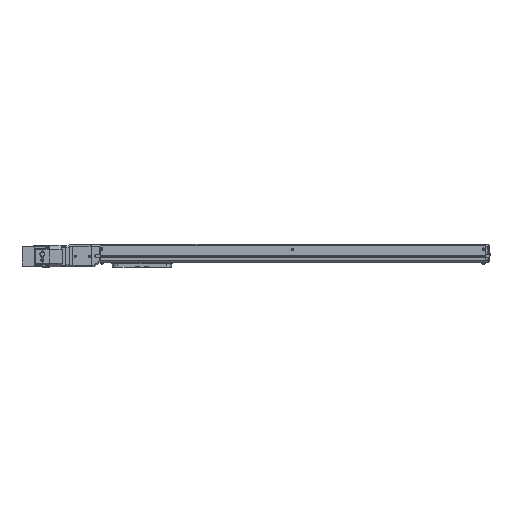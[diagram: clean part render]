
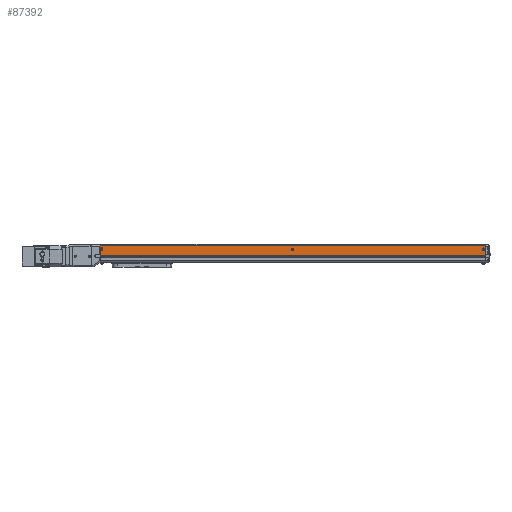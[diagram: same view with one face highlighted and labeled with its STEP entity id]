
A CAD part, top view. The second image highlights one B-rep face of the part: STEP entity #87392.
In plain terms, the highlighted planar face has unit normal (0, 0, 1) as drawn and (0, 0, -1) by its records, which use the part's own axes.
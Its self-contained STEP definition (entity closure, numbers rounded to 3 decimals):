
#68400 = PLANE('',#68401);
#68401 = AXIS2_PLACEMENT_3D('',#68402,#68403,#68404);
#68402 = CARTESIAN_POINT('',(-776.5,1.25,21.3));
#68403 = DIRECTION('',(1.,0.,0.));
#68404 = DIRECTION('',(0.,0.,-1.));
#68828 = PLANE('',#68829);
#68829 = AXIS2_PLACEMENT_3D('',#68830,#68831,#68832);
#68830 = CARTESIAN_POINT('',(-9.5,1.25,21.3));
#68831 = DIRECTION('',(1.,0.,0.));
#68832 = DIRECTION('',(0.,0.,-1.));
#86585 = VERTEX_POINT('',#86586);
#86586 = CARTESIAN_POINT('',(-776.5,-2.65,-21.5));
#86603 = CYLINDRICAL_SURFACE('',#86604,0.2);
#86604 = AXIS2_PLACEMENT_3D('',#86605,#86606,#86607);
#86605 = CARTESIAN_POINT('',(-776.5,-2.65,-21.3));
#86606 = DIRECTION('',(1.,0.,0.));
#86607 = DIRECTION('',(0.,0.,-1.));
#86615 = EDGE_CURVE('',#86616,#86585,#86618,.T.);
#86616 = VERTEX_POINT('',#86617);
#86617 = CARTESIAN_POINT('',(-776.5,-20.734,-21.5));
#86618 = SURFACE_CURVE('',#86619,(#86623,#86630),.PCURVE_S1.);
#86619 = LINE('',#86620,#86621);
#86620 = CARTESIAN_POINT('',(-776.5,-20.734,-21.5));
#86621 = VECTOR('',#86622,1.);
#86622 = DIRECTION('',(0.,1.,0.));
#86623 = PCURVE('',#68400,#86624);
#86624 = DEFINITIONAL_REPRESENTATION('',(#86625),#86629);
#86625 = LINE('',#86626,#86627);
#86626 = CARTESIAN_POINT('',(42.8,-21.984));
#86627 = VECTOR('',#86628,1.);
#86628 = DIRECTION('',(0.,1.));
#86629 = ( GEOMETRIC_REPRESENTATION_CONTEXT(2) 
PARAMETRIC_REPRESENTATION_CONTEXT() REPRESENTATION_CONTEXT('2D SPACE',''
  ) );
#86630 = PCURVE('',#86631,#86636);
#86631 = PLANE('',#86632);
#86632 = AXIS2_PLACEMENT_3D('',#86633,#86634,#86635);
#86633 = CARTESIAN_POINT('',(-776.5,-20.734,-21.5));
#86634 = DIRECTION('',(0.,0.,-1.));
#86635 = DIRECTION('',(-1.,0.,0.));
#86636 = DEFINITIONAL_REPRESENTATION('',(#86637),#86641);
#86637 = LINE('',#86638,#86639);
#86638 = CARTESIAN_POINT('',(0.,0.));
#86639 = VECTOR('',#86640,1.);
#86640 = DIRECTION('',(0.,1.));
#86641 = ( GEOMETRIC_REPRESENTATION_CONTEXT(2) 
PARAMETRIC_REPRESENTATION_CONTEXT() REPRESENTATION_CONTEXT('2D SPACE',''
  ) );
#86660 = CYLINDRICAL_SURFACE('',#86661,1.);
#86661 = AXIS2_PLACEMENT_3D('',#86662,#86663,#86664);
#86662 = CARTESIAN_POINT('',(-776.5,-20.734,-20.5));
#86663 = DIRECTION('',(1.,0.,0.));
#86664 = DIRECTION('',(0.,0.,-1.));
#87073 = VERTEX_POINT('',#87074);
#87074 = CARTESIAN_POINT('',(-9.5,-20.734,-21.5));
#87096 = EDGE_CURVE('',#87073,#87097,#87099,.T.);
#87097 = VERTEX_POINT('',#87098);
#87098 = CARTESIAN_POINT('',(-9.5,-2.65,-21.5));
#87099 = SURFACE_CURVE('',#87100,(#87104,#87111),.PCURVE_S1.);
#87100 = LINE('',#87101,#87102);
#87101 = CARTESIAN_POINT('',(-9.5,-20.734,-21.5));
#87102 = VECTOR('',#87103,1.);
#87103 = DIRECTION('',(0.,1.,0.));
#87104 = PCURVE('',#68828,#87105);
#87105 = DEFINITIONAL_REPRESENTATION('',(#87106),#87110);
#87106 = LINE('',#87107,#87108);
#87107 = CARTESIAN_POINT('',(42.8,-21.984));
#87108 = VECTOR('',#87109,1.);
#87109 = DIRECTION('',(0.,1.));
#87110 = ( GEOMETRIC_REPRESENTATION_CONTEXT(2) 
PARAMETRIC_REPRESENTATION_CONTEXT() REPRESENTATION_CONTEXT('2D SPACE',''
  ) );
#87111 = PCURVE('',#86631,#87112);
#87112 = DEFINITIONAL_REPRESENTATION('',(#87113),#87117);
#87113 = LINE('',#87114,#87115);
#87114 = CARTESIAN_POINT('',(-767.,0.));
#87115 = VECTOR('',#87116,1.);
#87116 = DIRECTION('',(0.,1.));
#87117 = ( GEOMETRIC_REPRESENTATION_CONTEXT(2) 
PARAMETRIC_REPRESENTATION_CONTEXT() REPRESENTATION_CONTEXT('2D SPACE',''
  ) );
#87372 = EDGE_CURVE('',#86616,#87073,#87373,.T.);
#87373 = SURFACE_CURVE('',#87374,(#87378,#87385),.PCURVE_S1.);
#87374 = LINE('',#87375,#87376);
#87375 = CARTESIAN_POINT('',(-776.5,-20.734,-21.5));
#87376 = VECTOR('',#87377,1.);
#87377 = DIRECTION('',(1.,0.,0.));
#87378 = PCURVE('',#86660,#87379);
#87379 = DEFINITIONAL_REPRESENTATION('',(#87380),#87384);
#87380 = LINE('',#87381,#87382);
#87381 = CARTESIAN_POINT('',(6.283,0.));
#87382 = VECTOR('',#87383,1.);
#87383 = DIRECTION('',(0.,1.));
#87384 = ( GEOMETRIC_REPRESENTATION_CONTEXT(2) 
PARAMETRIC_REPRESENTATION_CONTEXT() REPRESENTATION_CONTEXT('2D SPACE',''
  ) );
#87385 = PCURVE('',#86631,#87386);
#87386 = DEFINITIONAL_REPRESENTATION('',(#87387),#87391);
#87387 = LINE('',#87388,#87389);
#87388 = CARTESIAN_POINT('',(0.,0.));
#87389 = VECTOR('',#87390,1.);
#87390 = DIRECTION('',(-1.,0.));
#87391 = ( GEOMETRIC_REPRESENTATION_CONTEXT(2) 
PARAMETRIC_REPRESENTATION_CONTEXT() REPRESENTATION_CONTEXT('2D SPACE',''
  ) );
#87392 = ADVANCED_FACE('',(#87393,#87424,#87459,#87494),#86631,.T.);
#87393 = FACE_BOUND('',#87394,.T.);
#87394 = EDGE_LOOP('',(#87395));
#87395 = ORIENTED_EDGE('',*,*,#87396,.F.);
#87396 = EDGE_CURVE('',#87397,#87397,#87399,.T.);
#87397 = VERTEX_POINT('',#87398);
#87398 = CARTESIAN_POINT('',(-395.25,-13.5,-21.5));
#87399 = SURFACE_CURVE('',#87400,(#87405,#87412),.PCURVE_S1.);
#87400 = CIRCLE('',#87401,2.25);
#87401 = AXIS2_PLACEMENT_3D('',#87402,#87403,#87404);
#87402 = CARTESIAN_POINT('',(-393.,-13.5,-21.5));
#87403 = DIRECTION('',(0.,0.,-1.));
#87404 = DIRECTION('',(-1.,0.,0.));
#87405 = PCURVE('',#86631,#87406);
#87406 = DEFINITIONAL_REPRESENTATION('',(#87407),#87411);
#87407 = CIRCLE('',#87408,2.25);
#87408 = AXIS2_PLACEMENT_2D('',#87409,#87410);
#87409 = CARTESIAN_POINT('',(-383.5,7.234));
#87410 = DIRECTION('',(1.,0.));
#87411 = ( GEOMETRIC_REPRESENTATION_CONTEXT(2) 
PARAMETRIC_REPRESENTATION_CONTEXT() REPRESENTATION_CONTEXT('2D SPACE',''
  ) );
#87412 = PCURVE('',#87413,#87418);
#87413 = CONICAL_SURFACE('',#87414,2.25,0.087);
#87414 = AXIS2_PLACEMENT_3D('',#87415,#87416,#87417);
#87415 = CARTESIAN_POINT('',(-393.,-13.5,-21.5));
#87416 = DIRECTION('',(0.,0.,1.));
#87417 = DIRECTION('',(1.,0.,-0.));
#87418 = DEFINITIONAL_REPRESENTATION('',(#87419),#87423);
#87419 = LINE('',#87420,#87421);
#87420 = CARTESIAN_POINT('',(9.425,0.));
#87421 = VECTOR('',#87422,1.);
#87422 = DIRECTION('',(-1.,0.));
#87423 = ( GEOMETRIC_REPRESENTATION_CONTEXT(2) 
PARAMETRIC_REPRESENTATION_CONTEXT() REPRESENTATION_CONTEXT('2D SPACE',''
  ) );
#87424 = FACE_BOUND('',#87425,.T.);
#87425 = EDGE_LOOP('',(#87426));
#87426 = ORIENTED_EDGE('',*,*,#87427,.T.);
#87427 = EDGE_CURVE('',#87428,#87428,#87430,.T.);
#87428 = VERTEX_POINT('',#87429);
#87429 = CARTESIAN_POINT('',(-770.71,-14.5,-21.5));
#87430 = SURFACE_CURVE('',#87431,(#87436,#87447),.PCURVE_S1.);
#87431 = CIRCLE('',#87432,2.29);
#87432 = AXIS2_PLACEMENT_3D('',#87433,#87434,#87435);
#87433 = CARTESIAN_POINT('',(-773.,-14.5,-21.5));
#87434 = DIRECTION('',(0.,0.,1.));
#87435 = DIRECTION('',(1.,0.,-0.));
#87436 = PCURVE('',#86631,#87437);
#87437 = DEFINITIONAL_REPRESENTATION('',(#87438),#87446);
#87438 = ( BOUNDED_CURVE() B_SPLINE_CURVE(2,(#87439,#87440,#87441,#87442
    ,#87443,#87444,#87445),.UNSPECIFIED.,.T.,.F.) 
B_SPLINE_CURVE_WITH_KNOTS((1,2,2,2,2,1),(-2.094,0.,
    2.094,4.189,6.283,8.378),
.UNSPECIFIED.) CURVE() GEOMETRIC_REPRESENTATION_ITEM() 
RATIONAL_B_SPLINE_CURVE((1.,0.5,1.,0.5,1.,0.5,1.)) REPRESENTATION_ITEM(
  '') );
#87439 = CARTESIAN_POINT('',(-5.79,6.234));
#87440 = CARTESIAN_POINT('',(-5.79,10.201));
#87441 = CARTESIAN_POINT('',(-2.355,8.218));
#87442 = CARTESIAN_POINT('',(1.08,6.234));
#87443 = CARTESIAN_POINT('',(-2.355,4.251));
#87444 = CARTESIAN_POINT('',(-5.79,2.268));
#87445 = CARTESIAN_POINT('',(-5.79,6.234));
#87446 = ( GEOMETRIC_REPRESENTATION_CONTEXT(2) 
PARAMETRIC_REPRESENTATION_CONTEXT() REPRESENTATION_CONTEXT('2D SPACE',''
  ) );
#87447 = PCURVE('',#87448,#87453);
#87448 = CONICAL_SURFACE('',#87449,2.221,0.087);
#87449 = AXIS2_PLACEMENT_3D('',#87450,#87451,#87452);
#87450 = CARTESIAN_POINT('',(-773.,-14.5,-22.289));
#87451 = DIRECTION('',(0.,0.,1.));
#87452 = DIRECTION('',(1.,0.,-0.));
#87453 = DEFINITIONAL_REPRESENTATION('',(#87454),#87458);
#87454 = LINE('',#87455,#87456);
#87455 = CARTESIAN_POINT('',(0.,0.789));
#87456 = VECTOR('',#87457,1.);
#87457 = DIRECTION('',(1.,0.));
#87458 = ( GEOMETRIC_REPRESENTATION_CONTEXT(2) 
PARAMETRIC_REPRESENTATION_CONTEXT() REPRESENTATION_CONTEXT('2D SPACE',''
  ) );
#87459 = FACE_BOUND('',#87460,.T.);
#87460 = EDGE_LOOP('',(#87461));
#87461 = ORIENTED_EDGE('',*,*,#87462,.T.);
#87462 = EDGE_CURVE('',#87463,#87463,#87465,.T.);
#87463 = VERTEX_POINT('',#87464);
#87464 = CARTESIAN_POINT('',(-10.71,-14.5,-21.5));
#87465 = SURFACE_CURVE('',#87466,(#87471,#87482),.PCURVE_S1.);
#87466 = CIRCLE('',#87467,2.29);
#87467 = AXIS2_PLACEMENT_3D('',#87468,#87469,#87470);
#87468 = CARTESIAN_POINT('',(-13.,-14.5,-21.5));
#87469 = DIRECTION('',(0.,0.,1.));
#87470 = DIRECTION('',(1.,0.,-0.));
#87471 = PCURVE('',#86631,#87472);
#87472 = DEFINITIONAL_REPRESENTATION('',(#87473),#87481);
#87473 = ( BOUNDED_CURVE() B_SPLINE_CURVE(2,(#87474,#87475,#87476,#87477
    ,#87478,#87479,#87480),.UNSPECIFIED.,.T.,.F.) 
B_SPLINE_CURVE_WITH_KNOTS((1,2,2,2,2,1),(-2.094,0.,
    2.094,4.189,6.283,8.378),
.UNSPECIFIED.) CURVE() GEOMETRIC_REPRESENTATION_ITEM() 
RATIONAL_B_SPLINE_CURVE((1.,0.5,1.,0.5,1.,0.5,1.)) REPRESENTATION_ITEM(
  '') );
#87474 = CARTESIAN_POINT('',(-765.79,6.234));
#87475 = CARTESIAN_POINT('',(-765.79,10.201));
#87476 = CARTESIAN_POINT('',(-762.355,8.218));
#87477 = CARTESIAN_POINT('',(-758.92,6.234));
#87478 = CARTESIAN_POINT('',(-762.355,4.251));
#87479 = CARTESIAN_POINT('',(-765.79,2.268));
#87480 = CARTESIAN_POINT('',(-765.79,6.234));
#87481 = ( GEOMETRIC_REPRESENTATION_CONTEXT(2) 
PARAMETRIC_REPRESENTATION_CONTEXT() REPRESENTATION_CONTEXT('2D SPACE',''
  ) );
#87482 = PCURVE('',#87483,#87488);
#87483 = CONICAL_SURFACE('',#87484,2.221,0.087);
#87484 = AXIS2_PLACEMENT_3D('',#87485,#87486,#87487);
#87485 = CARTESIAN_POINT('',(-13.,-14.5,-22.289));
#87486 = DIRECTION('',(0.,0.,1.));
#87487 = DIRECTION('',(1.,0.,-0.));
#87488 = DEFINITIONAL_REPRESENTATION('',(#87489),#87493);
#87489 = LINE('',#87490,#87491);
#87490 = CARTESIAN_POINT('',(0.,0.789));
#87491 = VECTOR('',#87492,1.);
#87492 = DIRECTION('',(1.,0.));
#87493 = ( GEOMETRIC_REPRESENTATION_CONTEXT(2) 
PARAMETRIC_REPRESENTATION_CONTEXT() REPRESENTATION_CONTEXT('2D SPACE',''
  ) );
#87494 = FACE_BOUND('',#87495,.T.);
#87495 = EDGE_LOOP('',(#87496,#87497,#87498,#87499));
#87496 = ORIENTED_EDGE('',*,*,#87096,.F.);
#87497 = ORIENTED_EDGE('',*,*,#87372,.F.);
#87498 = ORIENTED_EDGE('',*,*,#86615,.T.);
#87499 = ORIENTED_EDGE('',*,*,#87500,.T.);
#87500 = EDGE_CURVE('',#86585,#87097,#87501,.T.);
#87501 = SURFACE_CURVE('',#87502,(#87506,#87513),.PCURVE_S1.);
#87502 = LINE('',#87503,#87504);
#87503 = CARTESIAN_POINT('',(-776.5,-2.65,-21.5));
#87504 = VECTOR('',#87505,1.);
#87505 = DIRECTION('',(1.,0.,0.));
#87506 = PCURVE('',#86631,#87507);
#87507 = DEFINITIONAL_REPRESENTATION('',(#87508),#87512);
#87508 = LINE('',#87509,#87510);
#87509 = CARTESIAN_POINT('',(0.,18.084));
#87510 = VECTOR('',#87511,1.);
#87511 = DIRECTION('',(-1.,0.));
#87512 = ( GEOMETRIC_REPRESENTATION_CONTEXT(2) 
PARAMETRIC_REPRESENTATION_CONTEXT() REPRESENTATION_CONTEXT('2D SPACE',''
  ) );
#87513 = PCURVE('',#86603,#87514);
#87514 = DEFINITIONAL_REPRESENTATION('',(#87515),#87519);
#87515 = LINE('',#87516,#87517);
#87516 = CARTESIAN_POINT('',(0.,0.));
#87517 = VECTOR('',#87518,1.);
#87518 = DIRECTION('',(0.,1.));
#87519 = ( GEOMETRIC_REPRESENTATION_CONTEXT(2) 
PARAMETRIC_REPRESENTATION_CONTEXT() REPRESENTATION_CONTEXT('2D SPACE',''
  ) );
